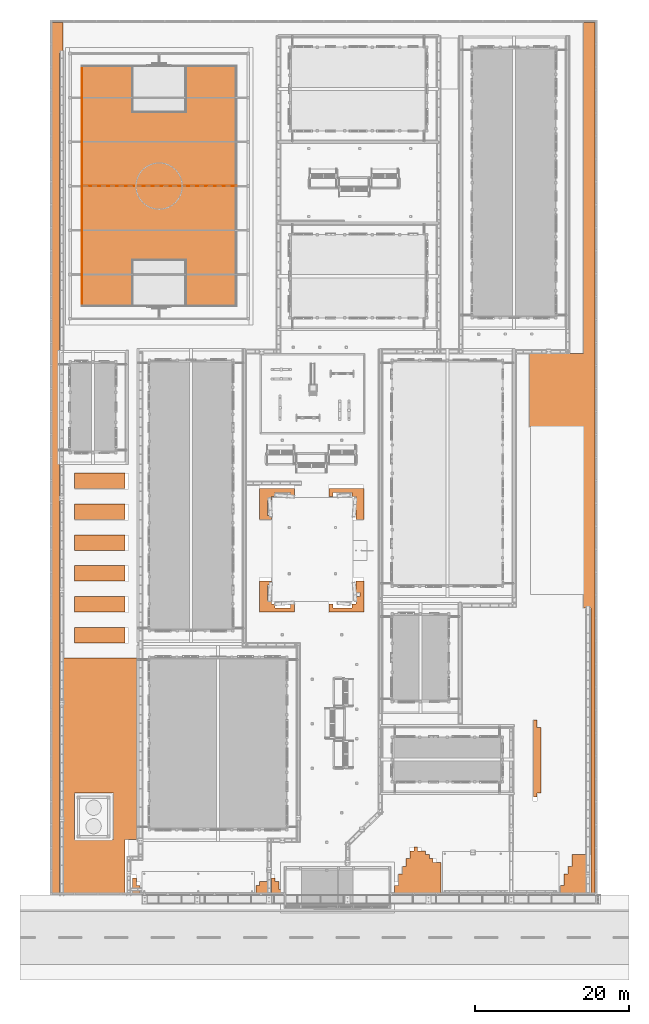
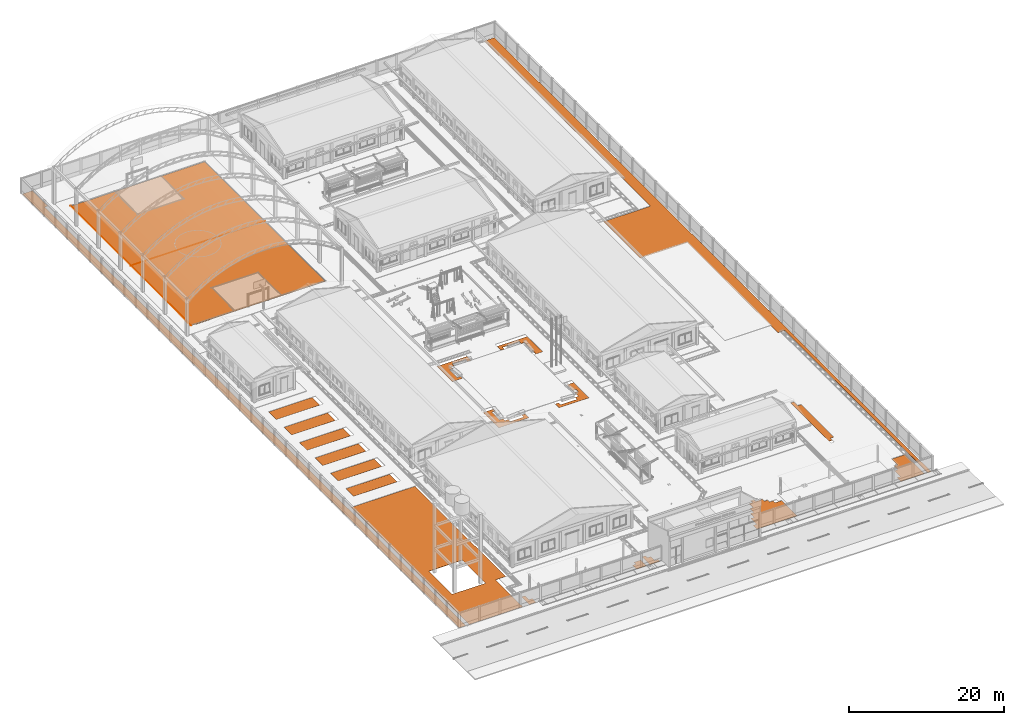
# One storey, part 149 of 151: 4 proxies.
"""IFC2X3 building model written with IfcOpenShell, lengths in metres."""

from ifc_helpers import new_model, si_unit, origin, origin_with_axes, place, context, subcontext, project, spatial, faceted_brep, element, save


model = new_model("IFC2X3")

# Units and contexts
model_context = context("Model", 3, precision=1e-05, world=origin_with_axes())
body_context = subcontext(model_context, "Body", "Model", "MODEL_VIEW")
ifc_project = project(units=[si_unit("LENGTHUNIT", "METRE"), si_unit("AREAUNIT", "SQUARE_METRE"), si_unit("VOLUMEUNIT", "CUBIC_METRE"), si_unit("PLANEANGLEUNIT", "RADIAN")], contexts=[model_context])

# Site, building, storey
site_placement = place(None, origin_with_axes())
site = spatial("IfcSite", under=ifc_project, at=site_placement, Name="Predio Los Mangos - Morales, San Martín", CompositionType="ELEMENT")
building_placement = place(site_placement, origin())
building = spatial("IfcBuilding", under=site, at=building_placement, Name="Hogar de Refugio Temporal", CompositionType="ELEMENT")
storey_placement = place(building_placement, origin())
storey = spatial("IfcBuildingStorey", under=building, at=storey_placement, Name="NIVEL 1 (NPT +0.00)", CompositionType="ELEMENT", Elevation=0.0)

# Proxies
proxy_1_placement = place(storey_placement, origin())
element("IfcBuildingElementProxy", 1, at=proxy_1_placement, inside=storey, Name="cancha", ObjectType="Losa deportiva y vía", context=body_context, shape_type="Brep", body=[
    faceted_brep([(5.0, 94.2, 0.12), (5.0, 125.4, 0.12), (25.1, 125.4, 0.12), (25.1, 94.2, 0.12), (5.0, 94.2, 0.125), (25.1, 94.2, 0.125), (25.1, 125.4, 0.125), (5.0, 125.4, 0.125)], [[[0, 1, 2, 3]], [[4, 5, 6, 7]], [[0, 3, 5, 4]], [[3, 2, 6, 5]], [[2, 1, 7, 6]], [[1, 0, 4, 7]]]),
])
proxy_2_placement = place(storey_placement, origin())
element("IfcBuildingElementProxy", 2, at=proxy_2_placement, inside=storey, Name="linea_cancha", ObjectType="Losa deportiva y vía", context=body_context, shape_type="Brep", body=[
    faceted_brep([(5.0, 94.2, 0.125), (5.0, 125.4, 0.125), (5.08, 125.4, 0.125), (5.08, 94.2, 0.125), (5.0, 94.2, 0.127), (5.08, 94.2, 0.127), (5.08, 125.4, 0.127), (5.0, 125.4, 0.127)], [[[0, 1, 2, 3]], [[4, 5, 6, 7]], [[0, 3, 5, 4]], [[3, 2, 6, 5]], [[2, 1, 7, 6]], [[1, 0, 4, 7]]]),
])
proxy_3_placement = place(storey_placement, origin())
element("IfcBuildingElementProxy", 3, at=proxy_3_placement, inside=storey, Name="linea_cancha", ObjectType="Losa deportiva y vía", context=body_context, shape_type="Brep", body=[
    faceted_brep([(5.0, 109.76, 0.125), (5.0, 109.84, 0.125), (25.1, 109.84, 0.125), (25.1, 109.76, 0.125), (5.0, 109.76, 0.127), (25.1, 109.76, 0.127), (25.1, 109.84, 0.127), (5.0, 109.84, 0.127)], [[[0, 1, 2, 3]], [[4, 5, 6, 7]], [[0, 3, 5, 4]], [[3, 2, 6, 5]], [[2, 1, 7, 6]], [[1, 0, 4, 7]]]),
])
proxy_4_placement = place(storey_placement, origin())
element("IfcBuildingElementProxy", 4, at=proxy_4_placement, inside=storey, Name="pasto_0", ObjectType="Área verde", context=body_context, shape_type="Brep", body=[
    faceted_brep([(70.1, 55.0514, 0.0), (70.1, 78.5514, 0.0), (70.1, 78.5514, -0.02), (70.1, 55.0514, -0.02), (4.1, 68.5514, -0.02), (10.6, 68.5514, -0.02), (10.6, 66.5514, -0.02), (4.1, 66.5514, -0.02), (70.1, 88.0514, 0.0), (70.1, 131.0514, 0.0), (70.1, 131.0514, -0.02), (70.1, 88.0514, -0.02), (2.6, 46.0514, -0.02), (8.6, 31.0514, -0.02), (4.1, 31.0514, -0.02), (4.1, 31.5514, -0.02), (2.6, 34.0514, -0.02), (1.1, 18.0514, 0.0), (1.1, 131.0514, 0.0), (1.1, 131.0514, -0.02), (1.1, 18.0514, -0.02), (70.6, 23.0514, 0.0), (70.6, 18.0514, 0.0), (70.6, 18.0514, -0.02), (70.6, 23.0514, -0.02), (71.6, 18.0514, -0.02), (71.1, 18.0514, -0.02), (71.1, 55.0514, -0.02), (63.1, 78.5514, -0.02), (63.1, 88.0514, -0.02), (71.6, 131.0514, -0.02), (71.1, 18.0514, 0.0), (71.1, 55.0514, 0.0), (2.6, 131.0514, -0.02), (2.6, 127.0514, -0.02), (2.1, 127.0514, -0.02), (2.1, 18.0514, -0.02), (12.6, 19.0514, 0.0), (12.6, 18.0514, 0.0), (12.6, 18.0514, -0.02), (12.6, 19.0514, -0.02), (12.1, 19.0514, -0.02), (11.6, 18.0514, -0.02), (11.6, 20.0514, -0.02), (12.1, 20.0514, -0.02), (37.1, 70.5514, 0.0), (41.6, 70.5514, 0.0), (41.6, 70.5514, -0.02), (37.1, 70.5514, -0.02), (40.6, 55.5514, 0.0), (40.6, 56.5514, 0.0), (40.6, 56.5514, -0.02), (40.6, 55.5514, -0.02), (10.6, 60.5514, 0.0), (10.6, 58.5514, 0.0), (10.6, 58.5514, -0.02), (10.6, 60.5514, -0.02), (29.1, 58.0514, 0.0), (29.6, 58.0514, 0.0), (29.6, 58.5514, 0.0), (28.1, 58.5514, 0.0), (28.1, 54.5514, 0.0), (32.6, 54.5514, 0.0), (32.6, 55.5514, 0.0), (32.1, 55.5514, 0.0), (32.1, 55.0514, 0.0), (30.1, 55.0514, 0.0), (30.1, 55.5514, 0.0), (29.6, 55.5514, 0.0), (29.6, 56.0514, 0.0), (29.1, 56.0514, 0.0), (10.6, 50.5514, -0.02), (4.1, 50.5514, -0.02), (4.1, 52.5514, -0.02), (10.6, 52.5514, -0.02), (29.1, 69.0514, 0.0), (29.1, 67.0514, 0.0), (29.1, 67.0514, -0.02), (29.1, 69.0514, -0.02), (50.1, 22.5514, -0.02), (50.6, 22.5514, -0.02), (50.6, 22.0514, -0.02), (51.6, 22.0514, -0.02), (51.6, 18.0514, -0.02), (45.6, 18.0514, -0.02), (45.6, 19.0514, -0.02), (46.1, 19.0514, -0.02), (46.1, 20.5514, -0.02), (46.6, 20.5514, -0.02), (46.6, 21.5514, -0.02), (47.1, 21.5514, -0.02), (47.1, 22.5514, -0.02), (47.6, 22.5514, -0.02), (47.6, 23.5514, -0.02), (48.1, 23.5514, -0.02), (48.1, 24.0514, -0.02), (48.6, 24.0514, -0.02), (48.6, 23.5514, -0.02), (49.6, 23.5514, -0.02), (49.6, 23.0514, -0.02), (50.1, 23.0514, -0.02), (67.1, 19.0514, 0.0), (67.6, 19.0514, 0.0), (67.6, 19.0514, -0.02), (67.1, 19.0514, -0.02), (37.1, 54.5514, -0.02), (37.1, 55.5514, -0.02), (37.6, 55.5514, -0.02), (37.6, 55.0514, -0.02), (40.1, 55.0514, -0.02), (40.1, 55.5514, -0.02), (41.1, 56.5514, -0.02), (41.1, 57.0514, -0.02), (40.6, 57.0514, -0.02), (40.6, 58.5514, -0.02), (41.6, 58.5514, -0.02), (41.6, 54.5514, -0.02), (10.6, 70.5514, 0.0), (4.1, 70.5514, 0.0), (4.1, 70.5514, -0.02), (10.6, 70.5514, -0.02), (46.6, 20.5514, 0.0), (46.6, 21.5514, 0.0), (47.6, 22.5514, 0.0), (47.6, 23.5514, 0.0), (4.1, 60.5514, 0.0), (4.1, 58.5514, 0.0), (48.6, 24.0514, 0.0), (48.6, 23.5514, 0.0), (41.6, 54.5514, 0.0), (37.1, 54.5514, 0.0), (30.1, 20.0514, 0.0), (30.1, 19.5514, 0.0), (30.1, 19.5514, -0.02), (30.1, 20.0514, -0.02), (29.6, 18.0514, -0.02), (29.6, 20.0514, -0.02), (30.6, 19.5514, -0.02), (30.6, 18.5514, -0.02), (31.1, 18.5514, -0.02), (31.1, 18.0514, -0.02), (37.6, 55.0514, 0.0), (40.1, 55.0514, 0.0), (4.1, 72.5514, -0.02), (10.6, 72.5514, -0.02), (4.1, 52.5514, 0.0), (10.6, 52.5514, 0.0), (32.6, 54.5514, -0.02), (32.6, 55.5514, -0.02), (2.6, 34.0514, 0.0), (2.6, 18.0514, 0.0), (10.6, 18.0514, 0.0), (10.6, 25.0514, 0.0), (12.1, 25.0514, 0.0), (12.1, 48.5514, 0.0), (2.6, 48.5514, 0.0), (2.6, 46.0514, 0.0), (8.6, 31.0514, 0.0), (9.1, 31.0514, 0.0), (9.1, 25.0514, 0.0), (4.1, 25.0514, 0.0), (4.1, 31.0514, 0.0), (4.1, 31.5514, 0.0), (46.1, 19.0514, 0.0), (46.1, 20.5514, 0.0), (40.1, 70.0514, 0.0), (37.6, 70.0514, 0.0), (37.6, 70.0514, -0.02), (40.1, 70.0514, -0.02), (64.6, 39.5514, 0.0), (64.6, 31.0514, 0.0), (64.6, 31.0514, -0.02), (64.6, 39.5514, -0.02), (67.1, 18.0514, 0.0), (67.1, 18.0514, -0.02), (2.6, 18.0514, -0.02), (10.6, 18.0514, -0.02), (64.1, 39.5514, -0.02), (64.1, 31.0514, -0.02), (64.1, 30.5514, -0.02), (63.6, 30.5514, -0.02), (63.6, 40.5514, -0.02), (64.1, 40.5514, -0.02), (29.6, 69.0514, 0.0), (29.6, 69.0514, -0.02), (28.1, 19.0514, 0.0), (28.1, 19.5514, 0.0), (28.1, 19.5514, -0.02), (28.1, 19.0514, -0.02), (4.1, 60.5514, -0.02), (4.1, 58.5514, -0.02), (29.1, 18.0514, 0.0), (29.1, 19.5514, 0.0), (27.6, 19.0514, 0.0), (27.6, 18.0514, 0.0), (11.6, 18.0514, 0.0), (11.6, 20.0514, 0.0), (37.6, 69.5514, 0.0), (37.1, 69.5514, 0.0), (37.1, 69.5514, -0.02), (37.6, 69.5514, -0.02), (67.6, 20.5514, 0.0), (68.1, 20.5514, 0.0), (68.1, 20.5514, -0.02), (67.6, 20.5514, -0.02), (9.1, 25.0514, -0.02), (4.1, 25.0514, -0.02), (2.1, 127.0514, 0.0), (2.1, 18.0514, 0.0), (10.6, 64.5514, 0.0), (4.1, 64.5514, 0.0), (4.1, 62.5514, 0.0), (10.6, 62.5514, 0.0), (49.6, 23.5514, 0.0), (41.6, 66.5514, 0.0), (40.1, 69.5514, 0.0), (40.6, 69.5514, 0.0), (40.6, 66.5514, 0.0), (30.6, 19.5514, 0.0), (30.6, 18.5514, 0.0), (4.1, 54.5514, 0.0), (4.1, 56.5514, 0.0), (4.1, 56.5514, -0.02), (4.1, 54.5514, -0.02), (41.6, 58.5514, 0.0), (49.6, 23.0514, 0.0), (48.1, 23.5514, 0.0), (48.1, 24.0514, 0.0), (10.6, 62.5514, -0.02), (10.6, 64.5514, -0.02), (10.6, 54.5514, 0.0), (10.6, 54.5514, -0.02), (45.6, 18.0514, 0.0), (45.6, 19.0514, 0.0), (4.1, 64.5514, -0.02), (27.6, 19.0514, -0.02), (27.6, 18.0514, -0.02), (10.6, 68.5514, 0.0), (10.6, 66.5514, 0.0), (47.1, 21.5514, 0.0), (32.1, 70.0514, 0.0), (30.1, 70.0514, 0.0), (30.1, 70.0514, -0.02), (32.1, 70.0514, -0.02), (29.1, 18.0514, -0.02), (29.1, 19.5514, -0.02), (40.6, 57.0514, 0.0), (40.6, 58.5514, 0.0), (47.1, 22.5514, 0.0), (68.6, 23.0514, 0.0), (68.6, 23.0514, -0.02), (64.1, 39.5514, 0.0), (64.1, 40.5514, 0.0), (63.6, 40.5514, 0.0), (63.6, 30.5514, 0.0), (64.1, 30.5514, 0.0), (64.1, 31.0514, 0.0), (4.1, 66.5514, 0.0), (50.6, 22.0514, 0.0), (51.6, 22.0514, 0.0), (4.1, 72.5514, 0.0), (10.6, 72.5514, 0.0), (51.6, 18.0514, 0.0), (2.6, 48.5514, -0.02), (4.1, 68.5514, 0.0), (29.1, 58.0514, -0.02), (29.1, 56.0514, -0.02), (29.6, 56.0514, -0.02), (29.6, 55.5514, -0.02), (30.1, 55.5514, -0.02), (30.1, 55.0514, -0.02), (32.1, 55.0514, -0.02), (32.1, 55.5514, -0.02), (28.1, 54.5514, -0.02), (28.1, 58.5514, -0.02), (29.6, 58.5514, -0.02), (29.6, 58.0514, -0.02), (31.1, 18.5514, 0.0), (31.1, 18.0514, 0.0), (29.6, 18.0514, 0.0), (9.1, 31.0514, -0.02), (32.6, 69.5514, 0.0), (32.6, 70.5514, 0.0), (28.1, 70.5514, 0.0), (28.1, 66.5514, 0.0), (29.6, 66.5514, 0.0), (29.6, 67.0514, 0.0), (29.6, 69.5514, 0.0), (30.1, 69.5514, 0.0), (32.1, 69.5514, 0.0), (63.1, 88.0514, 0.0), (37.1, 55.5514, 0.0), (37.6, 55.5514, 0.0), (29.6, 67.0514, -0.02), (10.6, 25.0514, -0.02), (50.1, 22.5514, 0.0), (50.6, 22.5514, 0.0), (4.1, 62.5514, -0.02), (71.6, 131.0514, 0.0), (40.1, 69.5514, -0.02), (12.1, 48.5514, -0.02), (68.6, 21.5514, 0.0), (68.1, 21.5514, 0.0), (41.6, 66.5514, -0.02), (40.6, 66.5514, -0.02), (40.6, 69.5514, -0.02), (10.6, 56.5514, -0.02), (12.1, 25.0514, -0.02), (28.1, 70.5514, -0.02), (28.1, 66.5514, -0.02), (40.1, 55.5514, 0.0), (2.6, 131.0514, 0.0), (2.6, 127.0514, 0.0), (32.6, 70.5514, -0.02), (12.1, 19.0514, 0.0), (12.1, 20.0514, 0.0), (41.1, 57.0514, 0.0), (41.1, 56.5514, 0.0), (29.6, 69.5514, -0.02), (71.6, 18.0514, 0.0), (63.1, 78.5514, 0.0), (50.1, 23.0514, 0.0), (32.6, 69.5514, -0.02), (32.1, 69.5514, -0.02), (30.1, 69.5514, -0.02), (29.6, 66.5514, -0.02), (10.6, 50.5514, 0.0), (4.1, 50.5514, 0.0), (29.6, 20.0514, 0.0), (68.1, 21.5514, -0.02), (10.6, 56.5514, 0.0), (68.6, 21.5514, -0.02)], [[[0, 1, 2, 3]], [[4, 5, 6, 7]], [[8, 9, 10, 11]], [[12, 13, 14, 15, 16]], [[17, 18, 19, 20]], [[21, 22, 23, 24]], [[25, 26, 27, 3, 2, 28, 29, 11, 10, 30]], [[31, 32, 27, 26]], [[33, 34, 35, 36, 20, 19]], [[37, 38, 39, 40]], [[41, 40, 39, 42, 43, 44]], [[45, 46, 47, 48]], [[49, 50, 51, 52]], [[53, 54, 55, 56]], [[57, 58, 59, 60, 61, 62, 63, 64, 65, 66, 67, 68, 69, 70]], [[71, 72, 73, 74]], [[75, 76, 77, 78]], [[79, 80, 81, 82, 83, 84, 85, 86, 87, 88, 89, 90, 91, 92, 93, 94, 95, 96, 97, 98, 99, 100]], [[101, 102, 103, 104]], [[105, 106, 107, 108, 109, 110, 52, 51, 111, 112, 113, 114, 115, 116]], [[117, 118, 119, 120]], [[121, 122, 89, 88]], [[123, 124, 93, 92]], [[125, 126, 54, 53]], [[127, 128, 97, 96]], [[129, 130, 105, 116]], [[131, 132, 133, 134]], [[135, 136, 134, 133, 137, 138, 139, 140]], [[141, 142, 109, 108]], [[143, 144, 120, 119]], [[145, 146, 74, 73]], [[63, 62, 147, 148]], [[149, 150, 151, 152, 153, 154, 155, 156, 157, 158, 159, 160, 161, 162]], [[163, 164, 87, 86]], [[165, 166, 167, 168]], [[169, 170, 171, 172]], [[22, 173, 174, 23]], [[151, 150, 175, 176]], [[177, 172, 171, 178, 179, 180, 181, 182]], [[183, 75, 78, 184]], [[185, 186, 187, 188]], [[189, 56, 55, 190]], [[125, 53, 56, 189]], [[191, 192, 186, 185, 193, 194]], [[195, 196, 43, 42]], [[150, 149, 16, 175]], [[197, 198, 199, 200]], [[201, 202, 203, 204]], [[160, 159, 205, 206]], [[207, 208, 36, 35]], [[209, 210, 211, 212]], [[128, 213, 98, 97]], [[214, 46, 45, 198, 197, 166, 165, 215, 216, 217]], [[218, 219, 138, 137]], [[220, 221, 222, 223]], [[224, 129, 116, 115]], [[157, 161, 14, 13]], [[213, 225, 99, 98]], [[226, 227, 95, 94]], [[209, 212, 228, 229]], [[230, 220, 223, 231]], [[232, 233, 85, 84]], [[210, 209, 229, 234]], [[194, 193, 235, 236]], [[237, 238, 6, 5]], [[122, 239, 90, 89]], [[240, 241, 242, 243]], [[244, 236, 235, 188, 187, 245]], [[32, 0, 3, 27]], [[246, 247, 114, 113]], [[192, 191, 244, 245]], [[239, 248, 91, 90]], [[249, 21, 24, 250]], [[251, 252, 253, 254, 255, 256, 170, 169]], [[238, 257, 7, 6]], [[258, 259, 82, 81]], [[260, 118, 117, 261]], [[259, 262, 83, 82]], [[156, 155, 263, 12]], [[264, 237, 5, 4]], [[265, 266, 267, 268, 269, 270, 271, 272, 148, 147, 273, 274, 275, 276]], [[219, 277, 139, 138]], [[264, 257, 238, 237]], [[278, 279, 135, 140]], [[193, 185, 188, 235]], [[159, 158, 280, 205]], [[67, 66, 270, 269]], [[281, 282, 283, 284, 285, 286, 76, 75, 183, 287, 288, 241, 240, 289]], [[38, 195, 42, 39]], [[290, 8, 11, 29]], [[291, 292, 107, 106]], [[260, 261, 144, 143]], [[208, 17, 20, 36]], [[76, 286, 293, 77]], [[152, 151, 176, 294]], [[295, 296, 80, 79]], [[229, 228, 297, 234]], [[9, 298, 30, 10]], [[215, 165, 168, 299]], [[155, 154, 300, 263]], [[22, 21, 249, 301, 302, 202, 201, 102, 101, 173]], [[303, 304, 305, 299, 168, 167, 200, 199, 48, 47]], [[231, 223, 222, 306]], [[16, 15, 14, 206, 205, 280, 13, 12, 263, 300, 307, 294, 176, 175]], [[284, 283, 308, 309]], [[57, 70, 266, 265]], [[61, 60, 274, 273]], [[142, 310, 110, 109]], [[156, 149, 162, 161, 157]], [[217, 216, 305, 304]], [[252, 251, 177, 182]], [[227, 127, 96, 95]], [[191, 194, 236, 244]], [[311, 312, 34, 33]], [[153, 152, 294, 307]], [[283, 282, 313, 308]], [[314, 315, 196, 195, 38, 37]], [[316, 246, 113, 112]], [[68, 67, 269, 268]], [[132, 218, 137, 133]], [[256, 255, 179, 178]], [[66, 65, 271, 270]], [[130, 129, 224, 247, 246, 316, 317, 50, 49, 310, 142, 141, 292, 291]], [[287, 183, 184, 318]], [[118, 260, 143, 119]], [[319, 298, 9, 8, 290, 320, 1, 0, 32, 31]], [[62, 61, 273, 147]], [[320, 290, 29, 28]], [[196, 315, 44, 43]], [[166, 197, 200, 167]], [[161, 160, 206, 14]], [[295, 321, 225, 213, 128, 127, 227, 226, 124, 123, 248, 239, 122, 121, 164, 163, 233, 232, 262, 259, 258, 296]], [[322, 323, 243, 242, 324, 318, 184, 78, 77, 293, 325, 309, 308, 313]], [[326, 146, 145, 327]], [[58, 57, 265, 276]], [[328, 131, 134, 136]], [[321, 295, 79, 100]], [[54, 126, 190, 55]], [[202, 302, 329, 203]], [[288, 287, 318, 324]], [[327, 145, 73, 72]], [[211, 210, 234, 297]], [[233, 163, 86, 85]], [[186, 192, 245, 187]], [[317, 316, 112, 111]], [[221, 330, 306, 222]], [[298, 319, 25, 30]], [[315, 314, 41, 44]], [[279, 328, 136, 135]], [[149, 156, 12, 16]], [[254, 253, 181, 180]], [[69, 68, 268, 267]], [[251, 169, 172, 177]], [[292, 141, 108, 107]], [[247, 224, 115, 114]], [[18, 311, 33, 19]], [[279, 278, 277, 219, 218, 132, 131, 328]], [[214, 217, 304, 303]], [[60, 59, 275, 274]], [[248, 123, 92, 91]], [[50, 317, 111, 51]], [[173, 101, 104, 174]], [[261, 117, 120, 144]], [[312, 207, 35, 34]], [[253, 252, 182, 181]], [[285, 284, 309, 325]], [[23, 174, 104, 103, 204, 203, 329, 331, 250, 24]], [[330, 230, 231, 306]], [[225, 321, 100, 99]], [[70, 69, 267, 266]], [[46, 214, 303, 47]], [[146, 326, 71, 74]], [[286, 285, 325, 293]], [[241, 288, 324, 242]], [[59, 58, 276, 275]], [[1, 320, 28, 2]], [[170, 256, 178, 171]], [[65, 64, 272, 271]], [[130, 291, 106, 105]], [[126, 125, 189, 190]], [[64, 63, 148, 272]], [[216, 215, 299, 305]], [[314, 37, 40, 41]], [[302, 301, 331, 329]], [[319, 31, 26, 25]], [[164, 121, 88, 87]], [[310, 49, 52, 110]], [[124, 226, 94, 93]], [[255, 254, 180, 179]], [[296, 258, 81, 80]], [[102, 201, 204, 103]], [[281, 289, 323, 322]], [[158, 157, 13, 280]], [[230, 330, 221, 220]], [[212, 211, 297, 228]], [[326, 327, 72, 71]], [[154, 153, 307, 300]], [[311, 18, 17, 208, 207, 312]], [[262, 232, 84, 83]], [[257, 264, 4, 7]], [[277, 278, 140, 139]], [[282, 281, 322, 313]], [[301, 249, 250, 331]], [[289, 240, 243, 323]], [[198, 45, 48, 199]]]),
])

save(model, "model.ifc")
